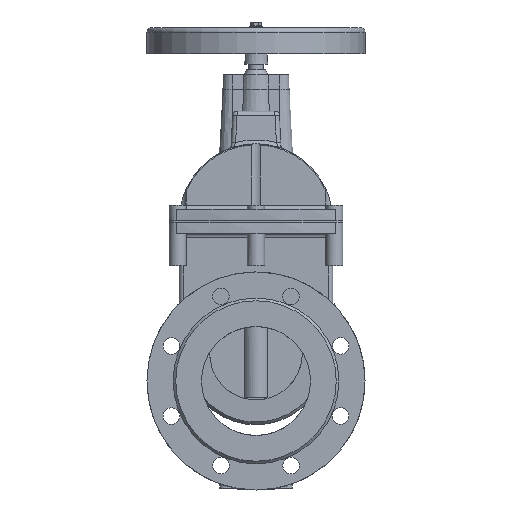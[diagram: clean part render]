
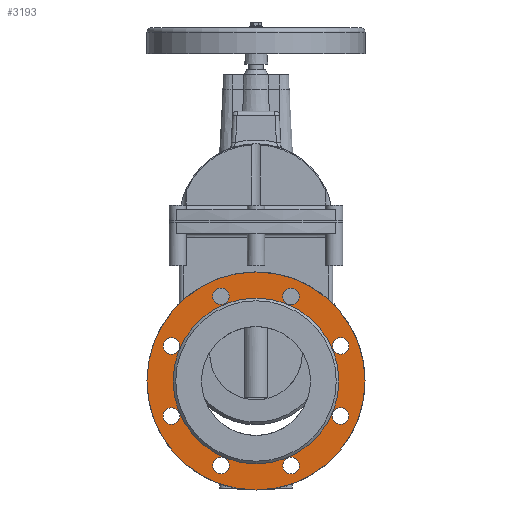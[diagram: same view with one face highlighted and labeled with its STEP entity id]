
A CAD part, left-side view. The second image highlights one B-rep face of the part: STEP entity #3193.
In plain terms, the highlighted planar face has unit normal (-1, 0, 0).
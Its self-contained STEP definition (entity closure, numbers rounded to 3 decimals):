
#3193=ADVANCED_FACE('',(#8199,#8201,#8203,#8205,#8207,#8209,#8211,#8213,#8215,#8217),
#8219,.F.);
#8199=FACE_BOUND('',#8200,.T.);
#8200=EDGE_LOOP('',(#17207));
#8201=FACE_BOUND('',#8202,.T.);
#8202=EDGE_LOOP('',(#17208));
#8203=FACE_BOUND('',#8204,.T.);
#8204=EDGE_LOOP('',(#17209));
#8205=FACE_BOUND('',#8206,.T.);
#8206=EDGE_LOOP('',(#17210));
#8207=FACE_BOUND('',#8208,.T.);
#8208=EDGE_LOOP('',(#17211));
#8209=FACE_BOUND('',#8210,.T.);
#8210=EDGE_LOOP('',(#17212));
#8211=FACE_BOUND('',#8212,.T.);
#8212=EDGE_LOOP('',(#17213));
#8213=FACE_BOUND('',#8214,.T.);
#8214=EDGE_LOOP('',(#17214));
#8215=FACE_BOUND('',#8216,.T.);
#8216=EDGE_LOOP('',(#17215));
#8217=FACE_BOUND('',#8218,.T.);
#8218=EDGE_LOOP('',(#17216));
#8219=PLANE('',#8220);
#8220=AXIS2_PLACEMENT_3D('',#8221,#8222,#8223);
#8221=CARTESIAN_POINT('',(-97.,0.,0.));
#8222=DIRECTION('',(1.,0.,0.));
#8223=DIRECTION('',(0.,1.,0.));
#17207=ORIENTED_EDGE('',*,*,#19798,.F.);
#17208=ORIENTED_EDGE('',*,*,#19812,.T.);
#17209=ORIENTED_EDGE('',*,*,#19811,.T.);
#17210=ORIENTED_EDGE('',*,*,#19810,.T.);
#17211=ORIENTED_EDGE('',*,*,#19809,.T.);
#17212=ORIENTED_EDGE('',*,*,#19808,.T.);
#17213=ORIENTED_EDGE('',*,*,#19807,.T.);
#17214=ORIENTED_EDGE('',*,*,#19806,.T.);
#17215=ORIENTED_EDGE('',*,*,#19876,.F.);
#17216=ORIENTED_EDGE('',*,*,#19805,.T.);
#19798=EDGE_CURVE('',#22383,#22383,#22384,.T.);
#19805=EDGE_CURVE('',#22393,#22393,#22394,.T.);
#19806=EDGE_CURVE('',#22395,#22395,#22396,.T.);
#19807=EDGE_CURVE('',#22397,#22397,#22398,.T.);
#19808=EDGE_CURVE('',#22399,#22399,#22400,.T.);
#19809=EDGE_CURVE('',#22401,#22401,#22402,.T.);
#19810=EDGE_CURVE('',#22403,#22403,#22404,.T.);
#19811=EDGE_CURVE('',#22405,#22405,#22406,.T.);
#19812=EDGE_CURVE('',#22407,#22407,#22408,.T.);
#19876=EDGE_CURVE('',#22505,#22505,#22506,.T.);
#22383=VERTEX_POINT('',#31064);
#22384=CIRCLE('',#31065,125.);
#22393=VERTEX_POINT('',#31091);
#22394=CIRCLE('',#31092,9.5);
#22395=VERTEX_POINT('',#31096);
#22396=CIRCLE('',#31097,9.5);
#22397=VERTEX_POINT('',#31101);
#22398=CIRCLE('',#31102,9.5);
#22399=VERTEX_POINT('',#31106);
#22400=CIRCLE('',#31107,9.5);
#22401=VERTEX_POINT('',#31111);
#22402=CIRCLE('',#31112,9.5);
#22403=VERTEX_POINT('',#31116);
#22404=CIRCLE('',#31117,9.5);
#22405=VERTEX_POINT('',#31121);
#22406=CIRCLE('',#31122,9.5);
#22407=VERTEX_POINT('',#31126);
#22408=CIRCLE('',#31127,9.5);
#22505=VERTEX_POINT('',#31362);
#22506=CIRCLE('',#31363,95.);
#31064=CARTESIAN_POINT('',(-97.,125.,0.));
#31065=AXIS2_PLACEMENT_3D('',#31066,#31067,#31068);
#31066=CARTESIAN_POINT('',(-97.,0.,0.));
#31067=DIRECTION('',(1.,0.,0.));
#31068=DIRECTION('',(0.,1.,0.));
#31091=CARTESIAN_POINT('',(-97.,106.507,40.182));
#31092=AXIS2_PLACEMENT_3D('',#31093,#31094,#31095);
#31093=CARTESIAN_POINT('',(-97.,97.007,40.182));
#31094=DIRECTION('',(1.,0.,0.));
#31095=DIRECTION('',(0.,1.,0.));
#31096=CARTESIAN_POINT('',(-97.,103.725,-46.899));
#31097=AXIS2_PLACEMENT_3D('',#31098,#31099,#31100);
#31098=CARTESIAN_POINT('',(-97.,97.007,-40.182));
#31099=DIRECTION('',(1.,0.,0.));
#31100=DIRECTION('',(0.,0.707,-0.707));
#31101=CARTESIAN_POINT('',(-97.,40.182,-106.507));
#31102=AXIS2_PLACEMENT_3D('',#31103,#31104,#31105);
#31103=CARTESIAN_POINT('',(-97.,40.182,-97.007));
#31104=DIRECTION('',(1.,0.,0.));
#31105=DIRECTION('',(0.,0.,-1.));
#31106=CARTESIAN_POINT('',(-97.,-46.899,-103.725));
#31107=AXIS2_PLACEMENT_3D('',#31108,#31109,#31110);
#31108=CARTESIAN_POINT('',(-97.,-40.182,-97.007));
#31109=DIRECTION('',(1.,0.,0.));
#31110=DIRECTION('',(0.,-0.707,-0.707));
#31111=CARTESIAN_POINT('',(-97.,-106.507,-40.182));
#31112=AXIS2_PLACEMENT_3D('',#31113,#31114,#31115);
#31113=CARTESIAN_POINT('',(-97.,-97.007,-40.182));
#31114=DIRECTION('',(1.,0.,0.));
#31115=DIRECTION('',(0.,-1.,0.));
#31116=CARTESIAN_POINT('',(-97.,-103.725,46.899));
#31117=AXIS2_PLACEMENT_3D('',#31118,#31119,#31120);
#31118=CARTESIAN_POINT('',(-97.,-97.007,40.182));
#31119=DIRECTION('',(1.,0.,0.));
#31120=DIRECTION('',(0.,-0.707,0.707));
#31121=CARTESIAN_POINT('',(-97.,-40.182,106.507));
#31122=AXIS2_PLACEMENT_3D('',#31123,#31124,#31125);
#31123=CARTESIAN_POINT('',(-97.,-40.182,97.007));
#31124=DIRECTION('',(1.,0.,0.));
#31125=DIRECTION('',(0.,0.,1.));
#31126=CARTESIAN_POINT('',(-97.,46.899,103.725));
#31127=AXIS2_PLACEMENT_3D('',#31128,#31129,#31130);
#31128=CARTESIAN_POINT('',(-97.,40.182,97.007));
#31129=DIRECTION('',(1.,0.,0.));
#31130=DIRECTION('',(0.,0.707,0.707));
#31362=CARTESIAN_POINT('',(-97.,-95.,0.));
#31363=AXIS2_PLACEMENT_3D('',#31364,#31365,#31366);
#31364=CARTESIAN_POINT('',(-97.,0.,0.));
#31365=DIRECTION('',(-1.,0.,0.));
#31366=DIRECTION('',(0.,-1.,0.));
